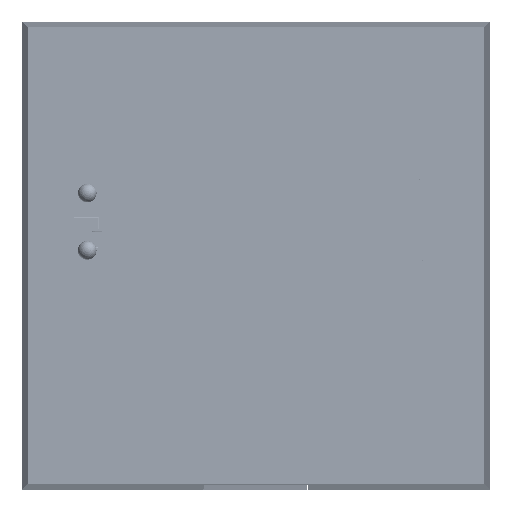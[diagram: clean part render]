
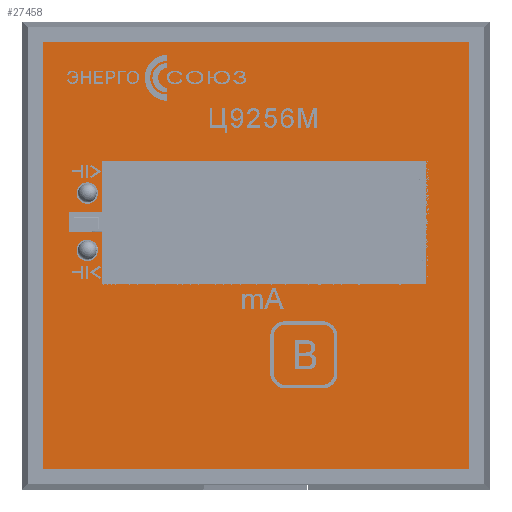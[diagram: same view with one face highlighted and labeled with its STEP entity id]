
A CAD part, top view. The second image highlights one B-rep face of the part: STEP entity #27458.
In plain terms, the highlighted planar face has unit normal (0, 0, 1).
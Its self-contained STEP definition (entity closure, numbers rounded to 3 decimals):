
#324 = DIRECTION ( 'NONE',  ( 1., 0., 0. ) ) ;
#1756 = EDGE_CURVE ( 'NONE', #55801, #39488, #16386, .T. ) ;
#2631 = CARTESIAN_POINT ( 'NONE',  ( -24.315, 0.846, 7.25 ) ) ;
#3325 = CARTESIAN_POINT ( 'NONE',  ( -23.659, 6.729, 7.25 ) ) ;
#3825 = DIRECTION ( 'NONE',  ( 0., 1., 0. ) ) ;
#4088 = CARTESIAN_POINT ( 'NONE',  ( 26.208, -4.33, 7.25 ) ) ;
#4303 = VECTOR ( 'NONE', #8945, 1000. ) ;
#4419 = DIRECTION ( 'NONE',  ( 1., 0., 0. ) ) ;
#4790 = CARTESIAN_POINT ( 'NONE',  ( -25.968, 9.659, 7.25 ) ) ;
#5811 = VECTOR ( 'NONE', #4419, 1000. ) ;
#5914 = FACE_OUTER_BOUND ( 'NONE', #71726, .T. ) ;
#6271 = ORIENTED_EDGE ( 'NONE', *, *, #23727, .F. ) ;
#8364 = DIRECTION ( 'NONE',  ( 0., 1., 0. ) ) ;
#8894 = DIRECTION ( 'NONE',  ( 0., -1., 0. ) ) ;
#8945 = DIRECTION ( 'NONE',  ( 1., 0., 0. ) ) ;
#9118 = DIRECTION ( 'NONE',  ( -1., 0., 0. ) ) ;
#9210 = CARTESIAN_POINT ( 'NONE',  ( -32.843, 32.843, 7.25 ) ) ;
#9407 = EDGE_CURVE ( 'NONE', #10056, #51642, #64821, .T. ) ;
#10056 = VERTEX_POINT ( 'NONE', #49906 ) ;
#10169 = VECTOR ( 'NONE', #14278, 1000. ) ;
#12236 = DIRECTION ( 'NONE',  ( 1., 0., 0. ) ) ;
#12307 = PLANE ( 'NONE',  #41488 ) ;
#13365 = AXIS2_PLACEMENT_3D ( 'NONE', #4790, #25926, #48677 ) ;
#13866 = CARTESIAN_POINT ( 'NONE',  ( -28.739, 6.729, 7.25 ) ) ;
#14278 = DIRECTION ( 'NONE',  ( 0., -1., 0. ) ) ;
#14439 = LINE ( 'NONE', #9210, #37191 ) ;
#15091 = CARTESIAN_POINT ( 'NONE',  ( -23.659, 14.589, 7.25 ) ) ;
#15867 = DIRECTION ( 'NONE',  ( 0., 0., 1. ) ) ;
#16386 = LINE ( 'NONE', #41114, #5811 ) ;
#16663 = CARTESIAN_POINT ( 'NONE',  ( -27.621, 0.846, 7.25 ) ) ;
#16905 = CARTESIAN_POINT ( 'NONE',  ( -28.739, 3.617, 7.25 ) ) ;
#17321 = ORIENTED_EDGE ( 'NONE', *, *, #76175, .T. ) ;
#17820 = DIRECTION ( 'NONE',  ( 0., 0., 1. ) ) ;
#18424 = CIRCLE ( 'NONE', #55383, 1.653 ) ;
#18833 = VERTEX_POINT ( 'NONE', #75350 ) ;
#20684 = ORIENTED_EDGE ( 'NONE', *, *, #45891, .F. ) ;
#21852 = EDGE_CURVE ( 'NONE', #34799, #38532, #66073, .T. ) ;
#21879 = CARTESIAN_POINT ( 'NONE',  ( -25.968, 0.846, 7.25 ) ) ;
#23540 = VERTEX_POINT ( 'NONE', #15091 ) ;
#23727 = EDGE_CURVE ( 'NONE', #38532, #34799, #50158, .T. ) ;
#25449 = EDGE_CURVE ( 'NONE', #34393, #61195, #46537, .T. ) ;
#25472 = CARTESIAN_POINT ( 'NONE',  ( 32.843, 32.843, 7.25 ) ) ;
#25926 = DIRECTION ( 'NONE',  ( 0., 0., 1. ) ) ;
#26982 = ORIENTED_EDGE ( 'NONE', *, *, #9407, .T. ) ;
#27207 = LINE ( 'NONE', #68298, #64554 ) ;
#27458 = ADVANCED_FACE ( 'NONE', ( #49408, #55791, #67766, #5914 ), #12307, .T. ) ;
#27556 = LINE ( 'NONE', #39080, #42126 ) ;
#27697 = CARTESIAN_POINT ( 'NONE',  ( -23.659, 3.617, 7.25 ) ) ;
#29311 = VECTOR ( 'NONE', #3825, 1000. ) ;
#29410 = VERTEX_POINT ( 'NONE', #4088 ) ;
#29435 = CARTESIAN_POINT ( 'NONE',  ( -23.659, 14.589, 7.25 ) ) ;
#29481 = EDGE_CURVE ( 'NONE', #61195, #34393, #18424, .T. ) ;
#29868 = EDGE_LOOP ( 'NONE', ( #77401, #30815 ) ) ;
#30815 = ORIENTED_EDGE ( 'NONE', *, *, #25449, .F. ) ;
#33136 = LINE ( 'NONE', #33513, #56142 ) ;
#33393 = CARTESIAN_POINT ( 'NONE',  ( 26.208, 14.589, 7.25 ) ) ;
#33513 = CARTESIAN_POINT ( 'NONE',  ( -23.659, -4.33, 7.25 ) ) ;
#34161 = CARTESIAN_POINT ( 'NONE',  ( 32.843, 32.843, 7.25 ) ) ;
#34393 = VERTEX_POINT ( 'NONE', #66228 ) ;
#34665 = CARTESIAN_POINT ( 'NONE',  ( -23.659, 14.589, 7.25 ) ) ;
#34799 = VERTEX_POINT ( 'NONE', #16663 ) ;
#34949 = LINE ( 'NONE', #34161, #29311 ) ;
#35496 = EDGE_CURVE ( 'NONE', #51642, #58437, #34949, .T. ) ;
#35609 = EDGE_LOOP ( 'NONE', ( #6271, #53148 ) ) ;
#36102 = AXIS2_PLACEMENT_3D ( 'NONE', #21879, #15867, #52971 ) ;
#37191 = VECTOR ( 'NONE', #63098, 1000. ) ;
#37430 = EDGE_CURVE ( 'NONE', #18833, #55801, #68541, .T. ) ;
#37517 = VECTOR ( 'NONE', #52011, 1000. ) ;
#37531 = CARTESIAN_POINT ( 'NONE',  ( -23.659, -4.33, 7.25 ) ) ;
#37640 = EDGE_LOOP ( 'NONE', ( #70341, #74301, #78667, #41439, #20684, #44863, #52957, #59976 ) ) ;
#38532 = VERTEX_POINT ( 'NONE', #2631 ) ;
#39080 = CARTESIAN_POINT ( 'NONE',  ( 26.208, 14.589, 7.25 ) ) ;
#39488 = VERTEX_POINT ( 'NONE', #67919 ) ;
#41114 = CARTESIAN_POINT ( 'NONE',  ( -28.739, 3.617, 7.25 ) ) ;
#41439 = ORIENTED_EDGE ( 'NONE', *, *, #52632, .F. ) ;
#41488 = AXIS2_PLACEMENT_3D ( 'NONE', #66588, #72990, #324 ) ;
#42126 = VECTOR ( 'NONE', #8364, 1000. ) ;
#42613 = CARTESIAN_POINT ( 'NONE',  ( 32.843, -32.843, 7.25 ) ) ;
#43333 = CARTESIAN_POINT ( 'NONE',  ( -25.968, 0.846, 7.25 ) ) ;
#43942 = ORIENTED_EDGE ( 'NONE', *, *, #79036, .T. ) ;
#44220 = ORIENTED_EDGE ( 'NONE', *, *, #35496, .T. ) ;
#44863 = ORIENTED_EDGE ( 'NONE', *, *, #1756, .F. ) ;
#45891 = EDGE_CURVE ( 'NONE', #39488, #66027, #64758, .T. ) ;
#45952 = EDGE_CURVE ( 'NONE', #52127, #18833, #57995, .T. ) ;
#46258 = LINE ( 'NONE', #34665, #59287 ) ;
#46537 = CIRCLE ( 'NONE', #13365, 1.653 ) ;
#48677 = DIRECTION ( 'NONE',  ( 1., 0., 0. ) ) ;
#49128 = CARTESIAN_POINT ( 'NONE',  ( -32.843, 32.843, 7.25 ) ) ;
#49408 = FACE_BOUND ( 'NONE', #37640, .T. ) ;
#49906 = CARTESIAN_POINT ( 'NONE',  ( -32.843, -32.843, 7.25 ) ) ;
#49947 = DIRECTION ( 'NONE',  ( -1., 0., 0. ) ) ;
#50158 = CIRCLE ( 'NONE', #36102, 1.653 ) ;
#51295 = CARTESIAN_POINT ( 'NONE',  ( -32.843, -32.843, 7.25 ) ) ;
#51642 = VERTEX_POINT ( 'NONE', #42613 ) ;
#52011 = DIRECTION ( 'NONE',  ( -1., 0., 0. ) ) ;
#52127 = VERTEX_POINT ( 'NONE', #72006 ) ;
#52610 = EDGE_CURVE ( 'NONE', #29410, #68783, #27556, .T. ) ;
#52632 = EDGE_CURVE ( 'NONE', #66027, #29410, #33136, .T. ) ;
#52957 = ORIENTED_EDGE ( 'NONE', *, *, #37430, .F. ) ;
#52971 = DIRECTION ( 'NONE',  ( 1., 0., 0. ) ) ;
#53148 = ORIENTED_EDGE ( 'NONE', *, *, #21852, .F. ) ;
#55067 = EDGE_CURVE ( 'NONE', #68783, #23540, #46258, .T. ) ;
#55383 = AXIS2_PLACEMENT_3D ( 'NONE', #70361, #77180, #57983 ) ;
#55791 = FACE_BOUND ( 'NONE', #35609, .T. ) ;
#55801 = VERTEX_POINT ( 'NONE', #16905 ) ;
#56142 = VECTOR ( 'NONE', #75457, 1000. ) ;
#57983 = DIRECTION ( 'NONE',  ( 1., 0., 0. ) ) ;
#57995 = LINE ( 'NONE', #3325, #37517 ) ;
#58437 = VERTEX_POINT ( 'NONE', #25472 ) ;
#59287 = VECTOR ( 'NONE', #9118, 1000. ) ;
#59976 = ORIENTED_EDGE ( 'NONE', *, *, #45952, .F. ) ;
#61195 = VERTEX_POINT ( 'NONE', #69632 ) ;
#62762 = VERTEX_POINT ( 'NONE', #49128 ) ;
#63098 = DIRECTION ( 'NONE',  ( 0., -1., 0. ) ) ;
#63501 = AXIS2_PLACEMENT_3D ( 'NONE', #43333, #17820, #12236 ) ;
#64554 = VECTOR ( 'NONE', #49947, 1000. ) ;
#64758 = LINE ( 'NONE', #27697, #75808 ) ;
#64821 = LINE ( 'NONE', #51295, #4303 ) ;
#66027 = VERTEX_POINT ( 'NONE', #37531 ) ;
#66073 = CIRCLE ( 'NONE', #63501, 1.653 ) ;
#66228 = CARTESIAN_POINT ( 'NONE',  ( -27.621, 9.659, 7.25 ) ) ;
#66588 = CARTESIAN_POINT ( 'NONE',  ( -32.843, -32.843, 7.25 ) ) ;
#67766 = FACE_BOUND ( 'NONE', #29868, .T. ) ;
#67919 = CARTESIAN_POINT ( 'NONE',  ( -23.659, 3.617, 7.25 ) ) ;
#68298 = CARTESIAN_POINT ( 'NONE',  ( -32.843, 32.843, 7.25 ) ) ;
#68541 = LINE ( 'NONE', #13866, #10169 ) ;
#68783 = VERTEX_POINT ( 'NONE', #33393 ) ;
#69632 = CARTESIAN_POINT ( 'NONE',  ( -24.315, 9.659, 7.25 ) ) ;
#70341 = ORIENTED_EDGE ( 'NONE', *, *, #72204, .F. ) ;
#70361 = CARTESIAN_POINT ( 'NONE',  ( -25.968, 9.659, 7.25 ) ) ;
#71726 = EDGE_LOOP ( 'NONE', ( #43942, #26982, #44220, #17321 ) ) ;
#72006 = CARTESIAN_POINT ( 'NONE',  ( -23.659, 6.729, 7.25 ) ) ;
#72204 = EDGE_CURVE ( 'NONE', #23540, #52127, #77741, .T. ) ;
#72990 = DIRECTION ( 'NONE',  ( 0., 0., 1. ) ) ;
#74301 = ORIENTED_EDGE ( 'NONE', *, *, #55067, .F. ) ;
#75350 = CARTESIAN_POINT ( 'NONE',  ( -28.739, 6.729, 7.25 ) ) ;
#75457 = DIRECTION ( 'NONE',  ( 1., 0., 0. ) ) ;
#75808 = VECTOR ( 'NONE', #8894, 1000. ) ;
#76175 = EDGE_CURVE ( 'NONE', #58437, #62762, #27207, .T. ) ;
#76947 = DIRECTION ( 'NONE',  ( 0., -1., 0. ) ) ;
#77180 = DIRECTION ( 'NONE',  ( 0., 0., 1. ) ) ;
#77401 = ORIENTED_EDGE ( 'NONE', *, *, #29481, .F. ) ;
#77741 = LINE ( 'NONE', #29435, #78252 ) ;
#78252 = VECTOR ( 'NONE', #76947, 1000. ) ;
#78667 = ORIENTED_EDGE ( 'NONE', *, *, #52610, .F. ) ;
#79036 = EDGE_CURVE ( 'NONE', #62762, #10056, #14439, .T. ) ;
